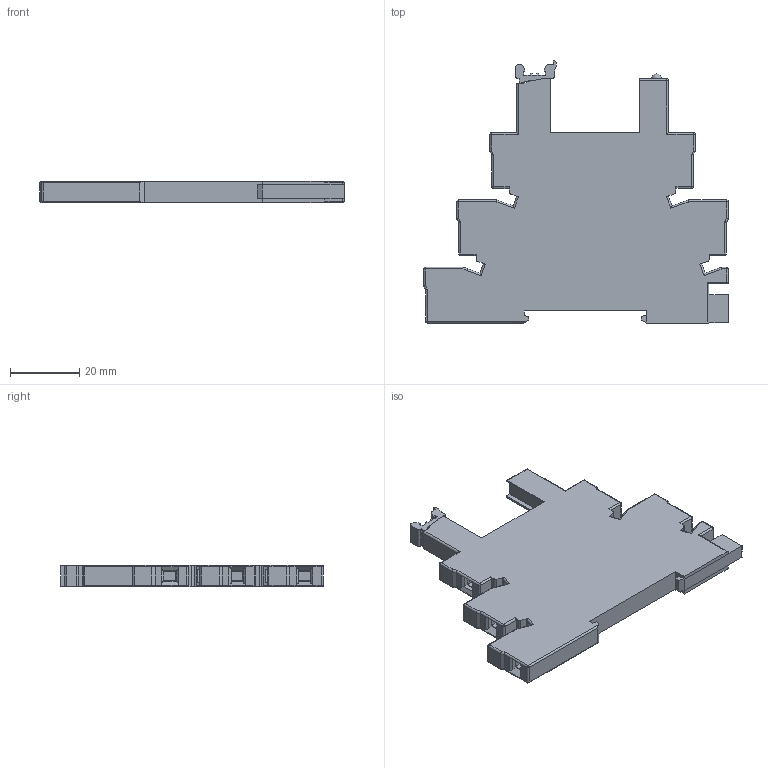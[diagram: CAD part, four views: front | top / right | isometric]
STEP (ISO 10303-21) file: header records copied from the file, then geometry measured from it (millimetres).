
FILE_DESCRIPTION(('STEP AP214'),'2;1');
FILE_NAME('93.21---skin.stp','2010-04-23T15:19:12',(''),(''),'2007.1.106','THINKDESIGN','');
FILE_SCHEMA(('AUTOMOTIVE_DESIGN'));
Length unit declared in the file: millimetre
Products named in the file (1): None
Bounding box: 87.85 x 75.58 x 6.2 mm (x, y, z)
Surface area: 12777.5 mm2 (no closed solid volume)
Topology: 0 solids, 0 shells, 555 faces, 2858 edges, 2830 vertices
Faces by surface type: plane 392, cylinder 129, bspline 34
Full cylindrical faces by diameter (mm): 2.2 x5, 2.459 x5, 3.3 x1, 3.5 x1, 3.8 x5, 4 x5
Entity records: 29319 total; most frequent: CARTESIAN_POINT 7880, DIRECTION 3780, COMPOSITE_CURVE_SEGMENT 2830, TRIMMED_CURVE 2509, VECTOR 2280, LINE 2280, AXIS2_PLACEMENT_3D 750, OUTER_BOUNDARY_CURVE 555
